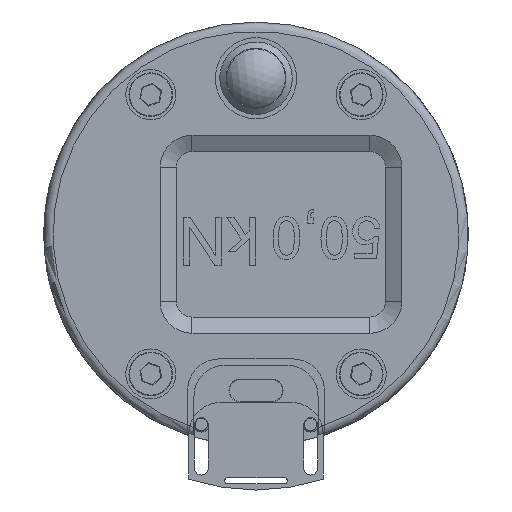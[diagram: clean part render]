
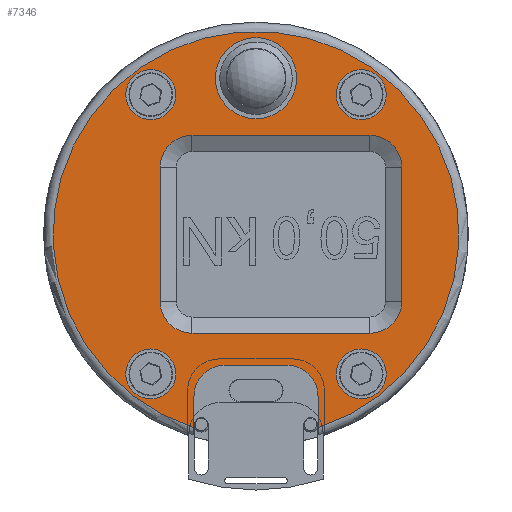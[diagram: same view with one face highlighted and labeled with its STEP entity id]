
A CAD part, left-side view. The second image highlights one B-rep face of the part: STEP entity #7346.
In plain terms, the highlighted planar face has unit normal (-1, 0, 0) as drawn and (0, 1, 0) by its records, which use the part's own axes.
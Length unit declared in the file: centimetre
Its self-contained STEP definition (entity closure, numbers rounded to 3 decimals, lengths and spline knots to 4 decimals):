
#893=CIRCLE('',#7846,0.5);
#895=CIRCLE('',#7850,0.5);
#900=CIRCLE('',#7861,3.25);
#901=CIRCLE('',#7864,0.4);
#902=CIRCLE('',#7865,0.4);
#903=CIRCLE('',#7866,0.4);
#904=CIRCLE('',#7867,0.4);
#905=CIRCLE('',#7868,0.5098);
#906=CIRCLE('',#7869,0.5098);
#907=CIRCLE('',#7870,0.5098);
#908=CIRCLE('',#7871,0.5098);
#909=CIRCLE('',#7872,0.65);
#1440=VERTEX_POINT('',#13203);
#1441=VERTEX_POINT('',#13204);
#1444=VERTEX_POINT('',#13212);
#1446=VERTEX_POINT('',#13231);
#1447=VERTEX_POINT('',#13232);
#1455=VERTEX_POINT('',#13270);
#1456=VERTEX_POINT('',#13289);
#1457=VERTEX_POINT('',#13291);
#1458=VERTEX_POINT('',#13293);
#1459=VERTEX_POINT('',#13295);
#1460=VERTEX_POINT('',#13297);
#1461=VERTEX_POINT('',#13298);
#1462=VERTEX_POINT('',#13300);
#1463=VERTEX_POINT('',#13302);
#1464=VERTEX_POINT('',#13304);
#1465=VERTEX_POINT('',#13306);
#1466=VERTEX_POINT('',#13308);
#1467=VERTEX_POINT('',#13310);
#1468=VERTEX_POINT('',#13313);
#2073=VECTOR('',#9076,1.);
#2078=VECTOR('',#9088,1.);
#2085=VECTOR('',#9110,1.);
#2086=VECTOR('',#9122,1.);
#2087=VECTOR('',#9125,1.);
#2088=VECTOR('',#9128,1.);
#2089=VECTOR('',#9131,1.);
#2673=LINE('',#13211,#2073);
#2678=LINE('',#13240,#2078);
#2685=LINE('',#13286,#2085);
#2686=LINE('',#13299,#2086);
#2687=LINE('',#13303,#2087);
#2688=LINE('',#13307,#2088);
#2689=LINE('',#13311,#2089);
#3525=EDGE_CURVE('',#1440,#1441,#893,.T.);
#3529=EDGE_CURVE('',#1444,#1441,#2673,.T.);
#3532=EDGE_CURVE('',#1446,#1447,#895,.T.);
#3537=EDGE_CURVE('',#1440,#1447,#2678,.T.);
#3548=EDGE_CURVE('',#1444,#1455,#900,.T.);
#3551=EDGE_CURVE('',#1446,#1455,#2685,.T.);
#3552=EDGE_CURVE('',#1456,#1456,#901,.T.);
#3553=EDGE_CURVE('',#1457,#1457,#902,.T.);
#3554=EDGE_CURVE('',#1458,#1458,#903,.T.);
#3555=EDGE_CURVE('',#1459,#1459,#904,.T.);
#3556=EDGE_CURVE('',#1460,#1461,#905,.T.);
#3557=EDGE_CURVE('',#1462,#1460,#2686,.T.);
#3558=EDGE_CURVE('',#1463,#1462,#906,.T.);
#3559=EDGE_CURVE('',#1464,#1463,#2687,.T.);
#3560=EDGE_CURVE('',#1465,#1464,#907,.T.);
#3561=EDGE_CURVE('',#1466,#1465,#2688,.T.);
#3562=EDGE_CURVE('',#1467,#1466,#908,.T.);
#3563=EDGE_CURVE('',#1461,#1467,#2689,.T.);
#3564=EDGE_CURVE('',#1468,#1468,#909,.T.);
#5180=ORIENTED_EDGE('',*,*,#3529,.T.);
#5181=ORIENTED_EDGE('',*,*,#3525,.F.);
#5182=ORIENTED_EDGE('',*,*,#3537,.T.);
#5183=ORIENTED_EDGE('',*,*,#3532,.F.);
#5184=ORIENTED_EDGE('',*,*,#3551,.T.);
#5185=ORIENTED_EDGE('',*,*,#3548,.F.);
#5186=ORIENTED_EDGE('',*,*,#3552,.T.);
#5187=ORIENTED_EDGE('',*,*,#3553,.T.);
#5188=ORIENTED_EDGE('',*,*,#3554,.T.);
#5189=ORIENTED_EDGE('',*,*,#3555,.T.);
#5190=ORIENTED_EDGE('',*,*,#3556,.F.);
#5191=ORIENTED_EDGE('',*,*,#3557,.F.);
#5192=ORIENTED_EDGE('',*,*,#3558,.F.);
#5193=ORIENTED_EDGE('',*,*,#3559,.F.);
#5194=ORIENTED_EDGE('',*,*,#3560,.F.);
#5195=ORIENTED_EDGE('',*,*,#3561,.F.);
#5196=ORIENTED_EDGE('',*,*,#3562,.F.);
#5197=ORIENTED_EDGE('',*,*,#3563,.F.);
#5198=ORIENTED_EDGE('',*,*,#3564,.T.);
#6299=EDGE_LOOP('',(#5180,#5181,#5182,#5183,#5184,#5185));
#6300=EDGE_LOOP('',(#5186));
#6301=EDGE_LOOP('',(#5187));
#6302=EDGE_LOOP('',(#5188));
#6303=EDGE_LOOP('',(#5189));
#6304=EDGE_LOOP('',(#5190,#5191,#5192,#5193,#5194,#5195,#5196,#5197));
#6305=EDGE_LOOP('',(#5198));
#6848=FACE_BOUND('',#6299,.T.);
#6849=FACE_BOUND('',#6300,.T.);
#6850=FACE_BOUND('',#6301,.T.);
#6851=FACE_BOUND('',#6302,.T.);
#6852=FACE_BOUND('',#6303,.T.);
#6853=FACE_BOUND('',#6304,.T.);
#6854=FACE_BOUND('',#6305,.T.);
#7346=ADVANCED_FACE('',(#6848,#6849,#6850,#6851,#6852,#6853,#6854),#14299,
 .T.);
#7846=AXIS2_PLACEMENT_3D('',#13202,#9069,#9070);
#7850=AXIS2_PLACEMENT_3D('',#13230,#9080,#9081);
#7861=AXIS2_PLACEMENT_3D('',#13269,#9107,#9108);
#7863=AXIS2_PLACEMENT_3D('',#13287,#9111,$);
#7864=AXIS2_PLACEMENT_3D('',#13288,#9112,#9113);
#7865=AXIS2_PLACEMENT_3D('',#13290,#9114,#9115);
#7866=AXIS2_PLACEMENT_3D('',#13292,#9116,#9117);
#7867=AXIS2_PLACEMENT_3D('',#13294,#9118,#9119);
#7868=AXIS2_PLACEMENT_3D('',#13296,#9120,#9121);
#7869=AXIS2_PLACEMENT_3D('',#13301,#9123,#9124);
#7870=AXIS2_PLACEMENT_3D('',#13305,#9126,#9127);
#7871=AXIS2_PLACEMENT_3D('',#13309,#9129,#9130);
#7872=AXIS2_PLACEMENT_3D('',#13312,#9132,#9133);
#9069=DIRECTION('',(0.,1.,0.));
#9070=DIRECTION('',(-0.354,0.,0.354));
#9076=DIRECTION('',(-1.,0.,0.));
#9080=DIRECTION('',(0.,1.,0.));
#9081=DIRECTION('',(-0.354,0.,-0.354));
#9088=DIRECTION('',(0.,0.,-1.));
#9107=DIRECTION('',(0.,-1.,0.));
#9108=DIRECTION('',(3.25,0.,0.));
#9110=DIRECTION('',(1.,0.,0.));
#9111=DIRECTION('',(0.,1.,0.));
#9112=DIRECTION('',(0.,-1.,0.));
#9113=DIRECTION('',(0.4,0.,0.));
#9114=DIRECTION('',(0.,-1.,0.));
#9115=DIRECTION('',(0.4,0.,0.));
#9116=DIRECTION('',(0.,-1.,0.));
#9117=DIRECTION('',(0.4,0.,0.));
#9118=DIRECTION('',(0.,-1.,0.));
#9119=DIRECTION('',(0.4,0.,0.));
#9120=DIRECTION('',(0.,1.,0.));
#9121=DIRECTION('',(0.36,0.,0.36));
#9122=DIRECTION('',(1.,0.,0.));
#9123=DIRECTION('',(0.,1.,0.));
#9124=DIRECTION('',(-0.36,0.,0.36));
#9125=DIRECTION('',(0.,0.,1.));
#9126=DIRECTION('',(0.,1.,0.));
#9127=DIRECTION('',(-0.36,0.,-0.36));
#9128=DIRECTION('',(-1.,0.,0.));
#9129=DIRECTION('',(0.,1.,0.));
#9130=DIRECTION('',(0.36,0.,-0.36));
#9131=DIRECTION('',(0.,0.,-1.));
#9132=DIRECTION('',(0.,-1.,0.));
#9133=DIRECTION('',(0.65,0.,0.));
#13202=CARTESIAN_POINT('',(2.5967,0.8,0.4942));
#13203=CARTESIAN_POINT('',(2.0967,0.8,0.4942));
#13204=CARTESIAN_POINT('',(2.5967,0.8,0.9942));
#13211=CARTESIAN_POINT('',(0.9532,0.8,0.9942));
#13212=CARTESIAN_POINT('',(3.0942,0.8,0.9942));
#13230=CARTESIAN_POINT('',(2.5967,0.8,-0.4942));
#13231=CARTESIAN_POINT('',(2.5967,0.8,-0.9942));
#13232=CARTESIAN_POINT('',(2.0967,0.8,-0.4942));
#13240=CARTESIAN_POINT('',(2.0967,0.8,0.));
#13269=CARTESIAN_POINT('',(0.,0.8,0.));
#13270=CARTESIAN_POINT('',(3.0942,0.8,-0.9942));
#13286=CARTESIAN_POINT('',(0.9532,0.8,-0.9942));
#13287=CARTESIAN_POINT('',(-1.7,0.8,0.));
#13288=CARTESIAN_POINT('',(2.2362,0.8,1.6851));
#13289=CARTESIAN_POINT('',(2.6362,0.8,1.6851));
#13290=CARTESIAN_POINT('',(2.2362,0.8,-1.6851));
#13291=CARTESIAN_POINT('',(2.6362,0.8,-1.6851));
#13292=CARTESIAN_POINT('',(-2.2362,0.8,1.6851));
#13293=CARTESIAN_POINT('',(-1.8362,0.8,1.6851));
#13294=CARTESIAN_POINT('',(-2.2362,0.8,-1.6851));
#13295=CARTESIAN_POINT('',(-1.8362,0.8,-1.6851));
#13296=CARTESIAN_POINT('',(1.075,0.8,1.025));
#13297=CARTESIAN_POINT('',(1.075,0.8,1.5348));
#13298=CARTESIAN_POINT('',(1.5848,0.8,1.025));
#13299=CARTESIAN_POINT('',(-0.85,0.8,1.5348));
#13300=CARTESIAN_POINT('',(-1.075,0.8,1.5348));
#13301=CARTESIAN_POINT('',(-1.075,0.8,1.025));
#13302=CARTESIAN_POINT('',(-1.5848,0.8,1.025));
#13303=CARTESIAN_POINT('',(-1.5848,0.8,-0.2));
#13304=CARTESIAN_POINT('',(-1.5848,0.8,-1.825));
#13305=CARTESIAN_POINT('',(-1.075,0.8,-1.825));
#13306=CARTESIAN_POINT('',(-1.075,0.8,-2.3348));
#13307=CARTESIAN_POINT('',(-0.85,0.8,-2.3348));
#13308=CARTESIAN_POINT('',(1.075,0.8,-2.3348));
#13309=CARTESIAN_POINT('',(1.075,0.8,-1.825));
#13310=CARTESIAN_POINT('',(1.5848,0.8,-1.825));
#13311=CARTESIAN_POINT('',(1.5848,0.8,-0.2));
#13312=CARTESIAN_POINT('',(-2.5,0.8,0.));
#13313=CARTESIAN_POINT('',(-1.85,0.8,0.));
#14299=PLANE('',#7863);
